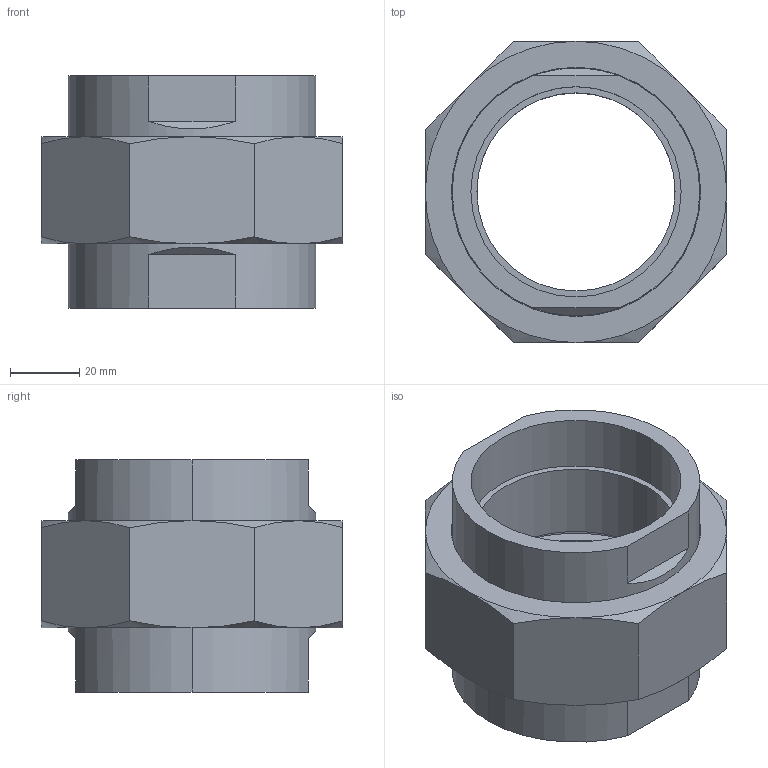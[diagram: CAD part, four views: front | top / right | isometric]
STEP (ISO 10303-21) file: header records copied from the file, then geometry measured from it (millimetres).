
FILE_DESCRIPTION (( 'STEP AP203' ), '1' );
FILE_NAME ('12-0131-14_outokumpu.step', '2015-08-12T08:10:41', ( '' ), ( '' ), 'SwSTEP 2.0', 'SolidWorks 2008', '' );
FILE_SCHEMA (( 'CONFIG_CONTROL_DESIGN' ));
Length unit declared in the file: millimetre
Products named in the file (4): nipple-13-444-215_outokumpu_nipple-13-444-215_outokumpu; 12-0131-14_outokumpu; nut-13-222-060_outokumpu_nut-13-222-060_outokumpu; case-13-555-395_outokumpu_case-13-555-395_outokumpu
Assembly tree (3 placements, depth 2):
  12-0131-14_outokumpu
    nut-13-222-060_outokumpu_nut-13-222-060_outokumpu
    nipple-13-444-215_outokumpu_nipple-13-444-215_outokumpu
    case-13-555-395_outokumpu_case-13-555-395_outokumpu
Bounding box: 87 x 87 x 67 mm (x, y, z)
Volume: 145499 mm3; surface area: 57396.3 mm2
Topology: 3 solids, 3 shells, 72 faces, 158 edges, 98 vertices
Faces by surface type: plane 28, cone 24, cylinder 20
Entity records: 2546 total; most frequent: CARTESIAN_POINT 554, DIRECTION 348, ORIENTED_EDGE 316, EDGE_CURVE 158, AXIS2_PLACEMENT_3D 148, VERTEX_POINT 98, EDGE_LOOP 84, FACE_OUTER_BOUND 72
